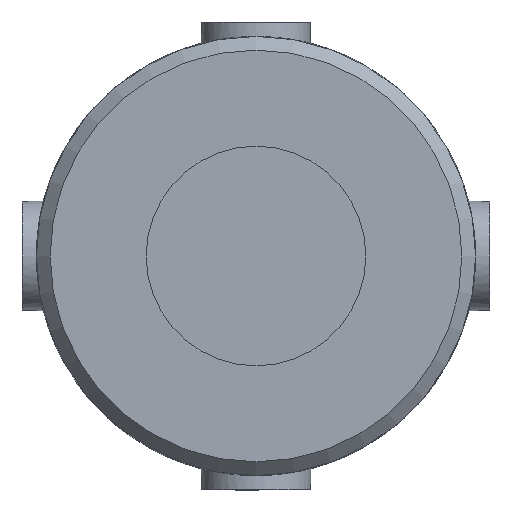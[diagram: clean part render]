
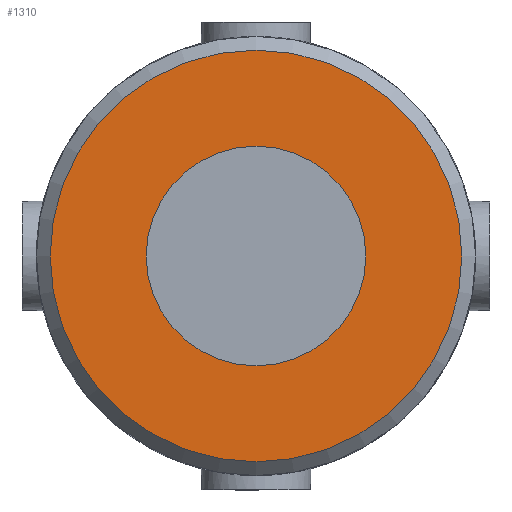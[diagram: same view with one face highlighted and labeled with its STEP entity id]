
A CAD part, left-side view. The second image highlights one B-rep face of the part: STEP entity #1310.
In plain terms, the highlighted planar face has unit normal (-1, 0, 0) as drawn and (0, -1, 0) by its records, which use the part's own axes.
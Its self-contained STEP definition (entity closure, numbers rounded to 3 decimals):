
#186=PLANE('',#1432);
#300=FACE_BOUND('',#463,.T.);
#360=FACE_OUTER_BOUND('',#462,.T.);
#462=EDGE_LOOP('',(#1115));
#463=EDGE_LOOP('',(#1116));
#544=CIRCLE('',#1427,8.);
#546=CIRCLE('',#1430,15.);
#648=VERTEX_POINT('',#2540);
#650=VERTEX_POINT('',#2545);
#811=EDGE_CURVE('',#648,#648,#544,.T.);
#813=EDGE_CURVE('',#650,#650,#546,.T.);
#1115=ORIENTED_EDGE('',*,*,#813,.F.);
#1116=ORIENTED_EDGE('',*,*,#811,.T.);
#1310=ADVANCED_FACE('',(#360,#300),#186,.F.);
#1427=AXIS2_PLACEMENT_3D('',#2541,#1678,#1679);
#1430=AXIS2_PLACEMENT_3D('',#2546,#1684,#1685);
#1432=AXIS2_PLACEMENT_3D('',#2722,#1692,#1693);
#1678=DIRECTION('center_axis',(0.,1.,0.));
#1679=DIRECTION('ref_axis',(-1.,0.,0.));
#1684=DIRECTION('center_axis',(0.,1.,0.));
#1685=DIRECTION('ref_axis',(1.,0.,0.));
#1692=DIRECTION('center_axis',(0.,1.,0.));
#1693=DIRECTION('ref_axis',(0.,0.,1.));
#2540=CARTESIAN_POINT('',(8.,-42.,0.));
#2541=CARTESIAN_POINT('Origin',(0.,-42.,0.));
#2545=CARTESIAN_POINT('',(-15.,-42.,0.));
#2546=CARTESIAN_POINT('Origin',(0.,-42.,0.));
#2722=CARTESIAN_POINT('Origin',(0.,-42.,0.));
